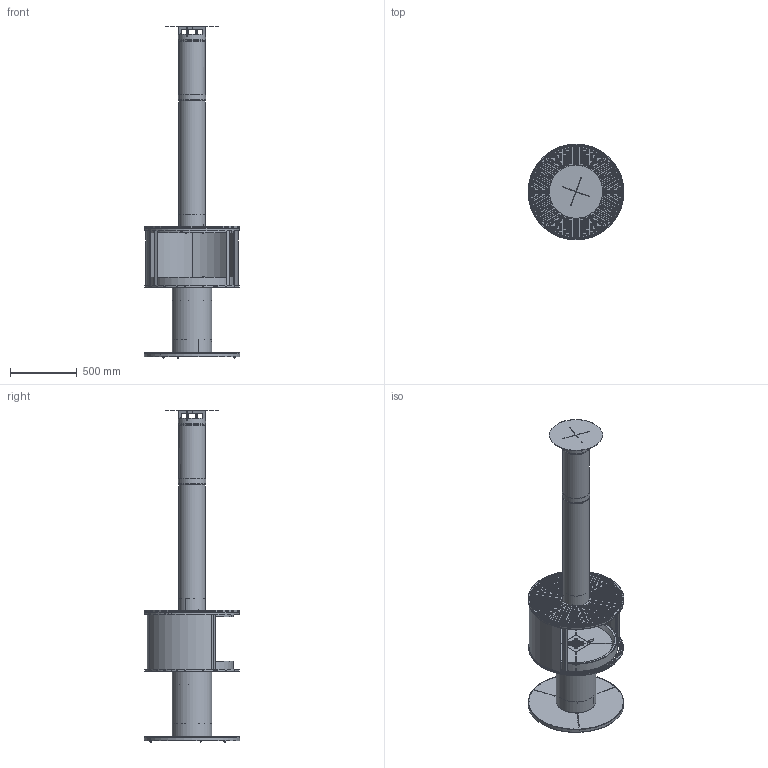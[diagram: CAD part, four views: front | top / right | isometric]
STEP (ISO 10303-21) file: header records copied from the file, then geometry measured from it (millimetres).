
FILE_DESCRIPTION(/* description */ ('','CAx-IF Rec.Pracs.---Representation and Presentation of Product Manufacturing Information (PMI)---3.8---2014-02-18'),/* implementation_level */ '2;1');
FILE_NAME(/* name */ 'C:\Users\ggu\Desktop\EP15_CAD\2016-00226.stp',/* time_stamp */ '2016-02-05T09:38:56+01:00',/* author */ ('ggu'),/* organization */ (''),/* preprocessor_version */ 'ST-DEVELOPER v16.1',/* originating_system */ 'Autodesk Inventor 2016',/* authorisation */ '');
FILE_SCHEMA (('AP242_MANAGED_MODEL_BASED_3D_ENGINEERING_MIM_LF { 1 0 10303 442 1 1 4 }'));
Products named in the file (44): 2015-01091; 2015-01100; 2015-01101; 2015-01103; 2015-01966; 2015-02860; 2015-01925; 2015-01121; 2015-01926_Schweißnähte; 2015-01120; 2015-01116; 2015-01117; 2015-01118; 2015-01125; 2015-01924; 2015-02623; 2015-02625; DIN 933 - M4  x 45; 2015-01926; 2015-01113; 2015-01962; 2015-01963; 2015-01964; 2015-01109; 2015-01110; 2015-01961; 2015-01970; 2015-01099; 2016-00015; 2015-03375; 2015-01219; 2015-01217; 2015-01218; 2015-01220; 2015-02158; 2015-03102_Schweißnähte; 2015-03100; 2015-03105; 2015-03350; 2015-03351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
Assembly tree (59 placements, depth 5):
  2015-01221
    2015-01099
      2015-01113
        2015-01925
          2015-01091
          2015-01100
          2015-01101
          2015-01103
          2015-01966
          2015-02860
        2015-01121  x4
        2015-01926
          2015-01926_Schweißnähte
          2015-01120
          2015-01116
          2015-01117
          2015-01118
          2015-01125
          2015-01924
          2015-02623  x2
          2015-02625
          DIN 933 - M4  x 45  x3
      2015-01964
        2015-01962
        2015-01963
      2015-01109  x2
      2015-01110  x2
      2015-01961  x4
      2015-01970
    2016-00015
    2015-03375
    2015-01220
      2015-01219
      2015-01217
      2015-01218
    2015-02158  x6
    2015-03102
      2015-03102_Schweißnähte
      2015-03100
      2015-03105
      2015-03350
      2015-03351
      2016-00061
    2016-00144
Bounding box: 719.99 x 720 x 2493 mm (x, y, z)
Volume: 29264980.4 mm3; surface area: 11443261.5 mm2
Topology: 121 solids, 121 shells, 4104 faces, 10333 edges, 6542 vertices
Faces by surface type: plane 1746, cylinder 1438, bspline 513, torus 284, cone 75, sphere 48
Full cylindrical faces by diameter (mm): 3.242 x15, 3.6 x6, 3.621 x3, 4 x3, 4.5 x6, 5.9 x3, 8 x5, 9 x2, 60 x1, 80 x1, 400 x1, 515 x1, 703.4 x1, 710 x1, 716 x1
Entity records: 89477 total; most frequent: CARTESIAN_POINT 23469, ORIENTED_EDGE 13666, DIRECTION 13126, EDGE_CURVE 6833, VERTEX_POINT 4502, AXIS2_PLACEMENT_3D 4471, LINE 4184, VECTOR 4184
